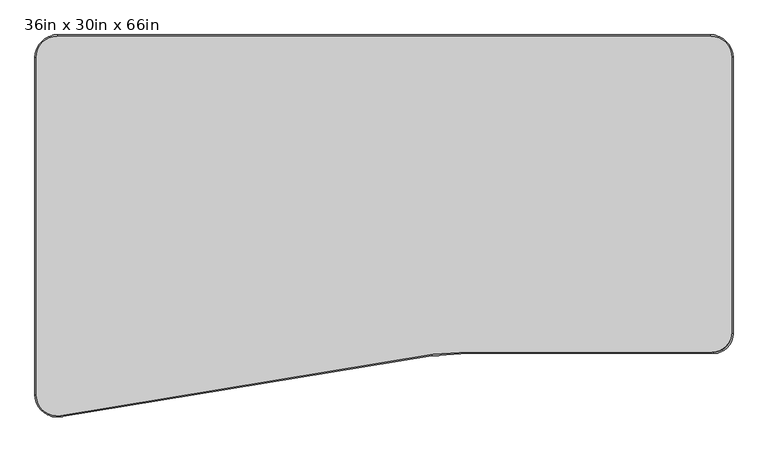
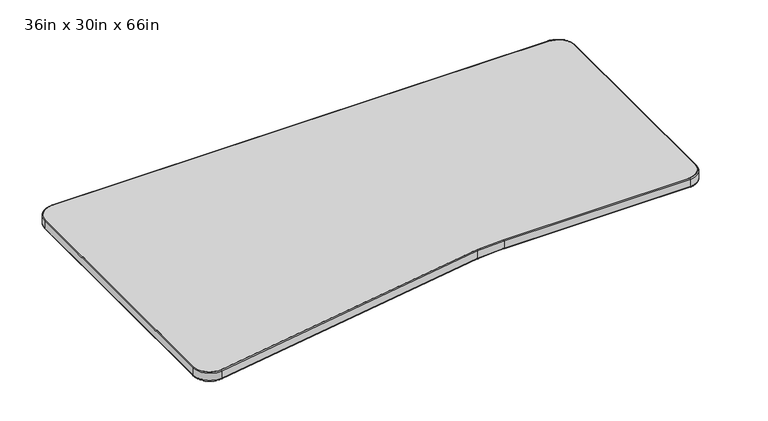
"""IFC4 building model written with IfcOpenShell, lengths in millimetres: furniture geometry, Steelcase - Answer Solution - Universal Table - Transition - Left : 36in x 30in x 66in."""

from ifc_helpers import new_model, si_unit, point, frame, frame_2d, origin, place, context, project, spatial, polyline, circle_curve, ellipse_curve, trimmed, segment, composite_curve, outline, extrude, source, transform, mapped, element, save
from ifc_brep_helpers import plane_surface, cylinder_surface, revolved_surface, advanced_brep


def furniture_36in_x_30in_x_66in_2783b16c(model_context):
    return source(origin(), model_context, "Body", "SolidModel", [
        extrude(outline(composite_curve([segment(polyline([(53.8479244, -3.0479999), (1616.2019516, -3.0479999)]), True, "CONTINUOUS"), segment(trimmed(circle_curve(frame_2d((1616.2019516, -53.8479999)), 50.8), [point((1616.2019516, -3.0479999))], [point((1667.0019516, -53.8479999))], False, "CARTESIAN"), True, "CONTINUOUS"), segment(polyline([(1667.0019516, -53.8479999), (1667.0019516, -711.0676965)]), True, "CONTINUOUS"), segment(trimmed(circle_curve(frame_2d((1619.1176452, -711.0676965)), 47.8843065), [point((1667.0019516, -711.0676965))], [point((1619.1176452, -758.9520029))], False, "CARTESIAN"), True, "CONTINUOUS"), segment(polyline([(1619.1176452, -758.9520029), (1034.7747338, -758.9520029)]), True, "CONTINUOUS"), segment(trimmed(circle_curve(frame_2d((1034.7747338, -1446.1704002)), 687.2183973), [point((1034.7747338, -758.9520029))], [point((951.2043966, -764.0522841))], True, "CARTESIAN"), True, "CONTINUOUS"), segment(polyline([(951.2043966, -764.0522841), (60.025543, -910.5787488)]), True, "CONTINUOUS"), segment(trimmed(circle_curve(frame_2d((53.8479244, -860.1557677)), 50.8), [point((60.025543, -910.5787488))], [point((3.0479244, -860.1557677))], False, "CARTESIAN"), True, "CONTINUOUS"), segment(polyline([(3.0479244, -860.1557677), (3.0479244, -53.8479999)]), True, "CONTINUOUS"), segment(trimmed(circle_curve(frame_2d((53.8479244, -53.8479999)), 50.8), [point((3.0479244, -53.8479999))], [point((53.8479244, -3.0479999))], False, "CARTESIAN"), True, "CONTINUOUS")], self_intersect=False)), frame((0.0, 0.0, 668.274), z_axis=(0.0, 0.0, 1.0), x_axis=(1.0, 0.0, 0.0)), (0.0, 0.0, 1.0), 30.0481659),
        advanced_brep(
        [(-7.55e-05, -53.8479999, 671.3219999), (53.8479244, 0.0, 671.3219999), (53.8479244, -3.0479999, 668.274), (3.0479244, -53.8479999, 668.274), (-7.55e-05, -53.8479999, 695.274166), (53.8479244, 0.0, 695.274166), (3.0479244, -53.8479999, 698.3221659), (53.8479244, -3.0479999, 698.3221659), (3.0479244, -860.1557677, 668.274), (-7.55e-05, -860.1557677, 671.3219999), (-7.55e-05, -860.1557677, 695.274166), (3.0479244, -860.1557677, 698.3221659), (60.3962001, -913.6041276, 671.3219999), (60.025543, -910.5787488, 668.274), (60.3962001, -913.6041276, 695.274166), (60.025543, -910.5787488, 698.3221659), (949.2804802, -764.2879945, 668.274), (949.7752543, -767.2955686, 671.3219999), (949.7752543, -767.2955686, 695.274166), (949.2804802, -764.2879945, 698.3221659), (1036.7130356, -762.0000028, 671.3219999), (1036.7130356, -758.9520029, 668.274), (1036.7130356, -762.0000028, 695.274166), (1036.7130356, -758.9520029, 698.3221659), (1622.5519516, -758.9520029, 668.274), (1622.5519516, -762.0000028, 671.3219999), (1622.5519516, -762.0000028, 695.274166), (1622.5519516, -758.9520029, 698.3221659), (1670.0499516, -714.5020029, 671.3219999), (1667.0019516, -714.5020029, 668.274), (1670.0499516, -714.5020029, 695.274166), (1667.0019516, -714.5020029, 698.3221659), (1667.0019516, -53.8479999, 668.274), (1670.0499516, -53.8479999, 671.3219999), (1670.0499516, -53.8479999, 695.274166), (1667.0019516, -53.8479999, 698.3221659), (1616.2019516, 0.0, 671.3219999), (1616.2019516, -3.0479999, 668.274), (1616.2019516, 0.0, 695.274166), (1616.2019516, -3.0479999, 698.3221659)],
        [
            (0, 1, circle_curve(frame((53.8479244, -53.8479999, 671.3219999), z_axis=(0.0, 0.0, -1.0), x_axis=(0.0, 1.0, 0.0)), 53.8479999)),
            (1, 2, circle_curve(frame((53.8479244, -3.0479999, 671.3219999), z_axis=(-1.0, 0.0, 0.0), x_axis=(0.0, -1.0, 0.0)), 3.0479999)),
            (2, 3, circle_curve(frame((53.8479244, -53.8479999, 668.274), z_axis=(0.0, 0.0, 1.0), x_axis=(0.0, 1.0, 0.0)), 50.8)),
            (3, 0, circle_curve(frame((3.0479244, -53.8479999, 671.3219999), z_axis=(0.0, 1.0, 0.0), x_axis=(1.0, 0.0, 0.0)), 3.0479999)),
            (4, 5, circle_curve(frame((53.8479244, -53.8479999, 695.274166), z_axis=(0.0, 0.0, -1.0), x_axis=(0.0, 1.0, 0.0)), 53.8479999)),
            (5, 1),
            (0, 4),
            (6, 7, circle_curve(frame((53.8479244, -53.8479999, 698.3221659), z_axis=(0.0, 0.0, -1.0), x_axis=(0.0, 1.0, 0.0)), 50.8)),
            (7, 5, circle_curve(frame((53.8479244, -3.0479999, 695.274166), z_axis=(-1.0, 0.0, 0.0), x_axis=(0.0, -1.0, 0.0)), 3.0479999)),
            (4, 6, circle_curve(frame((3.0479244, -53.8479999, 695.274166), z_axis=(0.0, 1.0, 0.0), x_axis=(1.0, 0.0, 0.0)), 3.0479999)),
            (2, 7),
            (6, 3),
            (3, 8),
            (8, 9, circle_curve(frame((3.0479244, -860.1557677, 671.3219999), z_axis=(0.0, 1.0, 0.0), x_axis=(1.0, 0.0, 0.0)), 3.0479999)),
            (9, 0),
            (9, 10),
            (10, 4),
            (10, 11, circle_curve(frame((3.0479244, -860.1557677, 695.274166), z_axis=(0.0, 1.0, 0.0), x_axis=(1.0, 0.0, 0.0)), 3.0479999)),
            (11, 6),
            (11, 8),
            (12, 9, circle_curve(frame((53.8479244, -860.1557677, 671.3219999), z_axis=(0.0, 0.0, -1.0), x_axis=(-1.0, 0.0, 0.0)), 53.8479999)),
            (8, 13, circle_curve(frame((53.8479244, -860.1557677, 668.274), z_axis=(0.0, 0.0, 1.0), x_axis=(-1.0, 0.0, 0.0)), 50.8)),
            (13, 12, circle_curve(frame((60.025543, -910.5787488, 671.3219999), z_axis=(-0.9925783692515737, -0.12160666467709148, 0.0), x_axis=(-0.12160666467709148, 0.9925783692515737, 0.0)), 3.0479999)),
            (14, 10, circle_curve(frame((53.8479244, -860.1557677, 695.274166), z_axis=(0.0, 0.0, -1.0), x_axis=(-1.0, 0.0, 0.0)), 53.8479999)),
            (12, 14),
            (15, 11, circle_curve(frame((53.8479244, -860.1557677, 698.3221659), z_axis=(0.0, 0.0, -1.0), x_axis=(-1.0, 0.0, 0.0)), 50.8)),
            (14, 15, circle_curve(frame((60.025543, -910.5787488, 695.274166), z_axis=(-0.9925783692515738, -0.12160666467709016, 0.0), x_axis=(-0.12160666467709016, 0.9925783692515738, 0.0)), 3.0479999)),
            (15, 13),
            (13, 16),
            (16, 17, circle_curve(frame((949.2804802, -764.2879945, 671.3219999), z_axis=(-0.9867369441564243, -0.1623274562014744, 0.0), x_axis=(-0.1623274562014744, 0.9867369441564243, 0.0)), 3.0479999)),
            (17, 12),
            (17, 18),
            (18, 14),
            (18, 19, circle_curve(frame((949.2804802, -764.2879945, 695.274166), z_axis=(-0.9867369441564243, -0.1623274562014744, 0.0), x_axis=(-0.1623274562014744, 0.9867369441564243, 0.0)), 3.0479999)),
            (19, 15),
            (19, 16),
            (20, 17, circle_curve(frame((1036.7130356, -1477.9303219, 671.3219999), z_axis=(0.0, 0.0, 1.0), x_axis=(-0.12160666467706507, 0.9925783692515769, 0.0)), 715.9303191)),
            (16, 21, circle_curve(frame((1036.7130356, -1477.9303219, 668.274), z_axis=(0.0, 0.0, -1.0), x_axis=(-0.12160666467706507, 0.9925783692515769, 0.0)), 718.978319)),
            (21, 20, circle_curve(frame((1036.7130356, -758.9520029, 671.3219999), z_axis=(-1.0, 0.0, 0.0), x_axis=(0.0, 1.0, 0.0)), 3.0479999)),
            (22, 18, circle_curve(frame((1036.7130356, -1477.9303219, 695.274166), z_axis=(0.0, 0.0, 1.0), x_axis=(-0.12160666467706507, 0.9925783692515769, 0.0)), 715.9303191)),
            (20, 22),
            (23, 19, circle_curve(frame((1036.7130356, -1477.9303219, 698.3221659), z_axis=(0.0, 0.0, 1.0), x_axis=(-0.12160666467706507, 0.9925783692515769, 0.0)), 718.978319)),
            (22, 23, circle_curve(frame((1036.7130356, -758.9520029, 695.274166), z_axis=(-0.9999999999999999, 0.0, 0.0), x_axis=(0.0, 0.9999999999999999, 0.0)), 3.0479999)),
            (23, 21),
            (21, 24),
            (24, 25, circle_curve(frame((1622.5519516, -758.9520029, 671.3219999), z_axis=(-1.0, 0.0, 0.0), x_axis=(0.0, 1.0, 0.0)), 3.0479999)),
            (25, 20),
            (25, 26),
            (26, 22),
            (26, 27, circle_curve(frame((1622.5519516, -758.9520029, 695.274166), z_axis=(-1.0, 0.0, 0.0), x_axis=(0.0, 1.0, 0.0)), 3.0479999)),
            (27, 23),
            (27, 24),
            (28, 25, circle_curve(frame((1622.5519516, -714.5020029, 671.3219999), z_axis=(0.0, 0.0, -1.0), x_axis=(0.0, -1.0, 0.0)), 47.4979999)),
            (24, 29, circle_curve(frame((1622.5519516, -714.5020029, 668.274), z_axis=(0.0, 0.0, 1.0), x_axis=(0.0, -1.0, 0.0)), 44.45)),
            (29, 28, circle_curve(frame((1667.0019516, -714.5020029, 671.3219999), z_axis=(0.0, -1.0, 0.0), x_axis=(-1.0, 0.0, 0.0)), 3.0479999)),
            (30, 26, circle_curve(frame((1622.5519516, -714.5020029, 695.274166), z_axis=(0.0, 0.0, -1.0), x_axis=(0.0, -1.0, 0.0)), 47.4979999)),
            (28, 30),
            (31, 27, circle_curve(frame((1622.5519516, -714.5020029, 698.3221659), z_axis=(0.0, 0.0, -1.0), x_axis=(0.0, -1.0, 0.0)), 44.45)),
            (30, 31, circle_curve(frame((1667.0019516, -714.5020029, 695.274166), z_axis=(0.0, -1.0, 0.0), x_axis=(-1.0, 0.0, 0.0)), 3.0479999)),
            (31, 29),
            (29, 32),
            (32, 33, circle_curve(frame((1667.0019516, -53.8479999, 671.3219999), z_axis=(0.0, -1.0, 0.0), x_axis=(-1.0, 0.0, 0.0)), 3.0479999)),
            (33, 28),
            (33, 34),
            (34, 30),
            (34, 35, circle_curve(frame((1667.0019516, -53.8479999, 695.274166), z_axis=(0.0, -1.0, 0.0), x_axis=(-1.0, 0.0, 0.0)), 3.0479999)),
            (35, 31),
            (35, 32),
            (36, 33, circle_curve(frame((1616.2019516, -53.8479999, 671.3219999), z_axis=(0.0, 0.0, -1.0), x_axis=(1.0, 0.0, 0.0)), 53.8479999)),
            (32, 37, circle_curve(frame((1616.2019516, -53.8479999, 668.274), z_axis=(0.0, 0.0, 1.0), x_axis=(1.0, 0.0, 0.0)), 50.8)),
            (37, 36, circle_curve(frame((1616.2019516, -3.0479999, 671.3219999), z_axis=(1.0, 0.0, 0.0), x_axis=(0.0, -1.0, 0.0)), 3.0479999)),
            (38, 34, circle_curve(frame((1616.2019516, -53.8479999, 695.274166), z_axis=(0.0, 0.0, -1.0), x_axis=(1.0, 0.0, 0.0)), 53.8479999)),
            (36, 38),
            (39, 35, circle_curve(frame((1616.2019516, -53.8479999, 698.3221659), z_axis=(0.0, 0.0, -1.0), x_axis=(1.0, 0.0, 0.0)), 50.8)),
            (38, 39, circle_curve(frame((1616.2019516, -3.0479999, 695.274166), z_axis=(1.0, 0.0, 0.0), x_axis=(0.0, -1.0, 0.0)), 3.0479999)),
            (39, 37),
            (37, 2),
            (1, 36),
            (5, 38),
            (7, 39),
        ],
        [
            revolved_surface(trimmed(ellipse_curve(frame((53.8479244, -3.0479999, 671.3219999), z_axis=(1.0, 0.0, 0.0), x_axis=(0.0, -1.0, 0.0)), 3.0479999, 3.0479999), [point((53.8479244, -3.0479999, 668.274))], [point((53.8479244, 0.0, 671.3219999))], True, "CARTESIAN"), (53.8479244, -53.8479999, 0.0), (0.0, 0.0, 1.0)),
            cylinder_surface(frame((53.8479244, -53.8479999, 0.0), z_axis=(0.0, 0.0, 1.0), x_axis=(0.0, 1.0, 0.0)), 53.8479999),
            revolved_surface(trimmed(ellipse_curve(frame((53.8479244, -3.0479999, 695.274166), z_axis=(1.0, 0.0, 0.0), x_axis=(0.0, -1.0, 0.0)), 3.0479999, 3.0479999), [point((53.8479244, 0.0, 695.274166))], [point((53.8479244, -3.0479999, 698.3221659))], True, "CARTESIAN"), (53.8479244, -53.8479999, 0.0), (0.0, 0.0, 1.0)),
            revolved_surface(polyline([(53.8479244, -3.0479999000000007, 698.3221659), (53.8479244, -3.0479999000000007, 668.274)]), (53.8479244, -53.8479999, 0.0), (0.0, 0.0, 1.0)),
            cylinder_surface(frame((3.0479244, -53.8479999, 671.3219999), z_axis=(0.0, 1.0, 0.0), x_axis=(1.0, 0.0, 0.0)), 3.0479999),
            plane_surface(frame((-7.55e-05, -53.8479999, 671.3219999), z_axis=(-1.0, 0.0, 0.0), x_axis=(0.0, -1.0, 0.0))),
            cylinder_surface(frame((3.0479244, -53.8479999, 695.274166), z_axis=(0.0, 1.0, 0.0), x_axis=(1.0, 0.0, 0.0)), 3.0479999),
            plane_surface(frame((3.0479244, -53.8479999, 698.3221659), z_axis=(1.0, 0.0, 0.0), x_axis=(0.0, -1.0, 0.0))),
            revolved_surface(trimmed(ellipse_curve(frame((3.0479244, -860.1557677, 671.3219999), z_axis=(0.0, 1.0, 0.0), x_axis=(1.0, 0.0, 0.0)), 3.0479999, 3.0479999), [point((3.0479244, -860.1557677, 668.274))], [point((-7.55e-05, -860.1557677, 671.3219999))], True, "CARTESIAN"), (53.8479244, -860.1557677, 0.0), (0.0, 0.0, 1.0)),
            cylinder_surface(frame((53.8479244, -860.1557677, 0.0), z_axis=(0.0, 0.0, 1.0), x_axis=(-1.0, 0.0, 0.0)), 53.8479999),
            revolved_surface(trimmed(ellipse_curve(frame((3.0479244, -860.1557677, 695.274166), z_axis=(0.0, 1.0, 0.0), x_axis=(1.0, 0.0, 0.0)), 3.0479999, 3.0479999), [point((-7.55e-05, -860.1557677, 695.274166))], [point((3.0479244, -860.1557677, 698.3221659))], True, "CARTESIAN"), (53.8479244, -860.1557677, 0.0), (0.0, 0.0, 1.0)),
            revolved_surface(polyline([(3.0479243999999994, -860.1557677, 698.3221659), (3.0479243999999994, -860.1557677, 668.274)]), (53.8479244, -860.1557677, 0.0), (0.0, 0.0, 1.0)),
            cylinder_surface(frame((60.025543, -910.5787488, 671.3219999), z_axis=(-0.9867369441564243, -0.1623274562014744, 0.0), x_axis=(-0.1623274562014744, 0.9867369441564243, 0.0)), 3.0479999),
            plane_surface(frame((60.396514, -913.6066897, 671.3219999), z_axis=(0.16232745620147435, -0.9867369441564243, 0.0), x_axis=(0.9867369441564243, 0.16232745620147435, 0.0))),
            cylinder_surface(frame((60.025543, -910.5787488, 695.274166), z_axis=(-0.9867369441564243, -0.1623274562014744, 0.0), x_axis=(-0.1623274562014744, 0.9867369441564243, 0.0)), 3.0479999),
            plane_surface(frame((60.025543, -910.5787488, 698.3221659), z_axis=(-0.1623274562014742, 0.9867369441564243, 0.0), x_axis=(0.9867369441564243, 0.1623274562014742, 0.0))),
            revolved_surface(trimmed(ellipse_curve(frame((949.2804802, -764.2879945, 671.3219999), z_axis=(-0.9925783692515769, -0.12160666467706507, 0.0), x_axis=(-0.12160666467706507, 0.9925783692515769, 0.0)), 3.0479999, 3.0479999), [point((949.2804802, -764.2879945, 668.274))], [point((949.6511373, -767.3133733, 671.3219999))], True, "CARTESIAN"), (1036.7130356, -1477.9303219, 0.0), (0.0, 0.0, -1.0)),
            revolved_surface(polyline([(949.6511373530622, -767.313373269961, 671.3219999), (949.6511373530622, -767.313373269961, 695.274166)]), (1036.7130356, -1477.9303219, 0.0), (0.0, 0.0, -1.0)),
            revolved_surface(trimmed(ellipse_curve(frame((949.2804802, -764.2879945, 695.274166), z_axis=(-0.9925783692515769, -0.12160666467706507, 0.0), x_axis=(-0.12160666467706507, 0.9925783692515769, 0.0)), 3.0479999, 3.0479999), [point((949.6511373, -767.3133733, 695.274166))], [point((949.2804802, -764.2879945, 698.3221659))], True, "CARTESIAN"), (1036.7130356, -1477.9303219, 0.0), (0.0, 0.0, -1.0)),
            cylinder_surface(frame((1036.7130356, -1477.9303219, 0.0), z_axis=(0.0, 0.0, -1.0), x_axis=(-0.12160666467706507, 0.9925783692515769, 0.0)), 718.978319),
            cylinder_surface(frame((1036.7130356, -758.9520029, 671.3219999), z_axis=(-1.0, 0.0, 0.0), x_axis=(0.0, 1.0, 0.0)), 3.0479999),
            plane_surface(frame((1036.7130356, -762.0000028, 671.3219999), z_axis=(0.0, -1.0, 0.0), x_axis=(1.0, 0.0, 0.0))),
            cylinder_surface(frame((1036.7130356, -758.9520029, 695.274166), z_axis=(-1.0, 0.0, 0.0), x_axis=(0.0, 1.0, 0.0)), 3.0479999),
            plane_surface(frame((1036.7130356, -758.9520029, 698.3221659), z_axis=(0.0, 1.0, 0.0), x_axis=(1.0, 0.0, 0.0))),
            revolved_surface(trimmed(ellipse_curve(frame((1622.5519516, -758.9520029, 671.3219999), z_axis=(-1.0, 0.0, 0.0), x_axis=(0.0, 1.0, 0.0)), 3.0479999, 3.0479999), [point((1622.5519516, -758.9520029, 668.274))], [point((1622.5519516, -762.0000028, 671.3219999))], True, "CARTESIAN"), (1622.5519516, -714.5020029, 0.0), (0.0, 0.0, 1.0)),
            cylinder_surface(frame((1622.5519516, -714.5020029, 0.0), z_axis=(0.0, 0.0, 1.0), x_axis=(0.0, -1.0, 0.0)), 47.4979999),
            revolved_surface(trimmed(ellipse_curve(frame((1622.5519516, -758.9520029, 695.274166), z_axis=(-1.0, 0.0, 0.0), x_axis=(0.0, 1.0, 0.0)), 3.0479999, 3.0479999), [point((1622.5519516, -762.0000028, 695.274166))], [point((1622.5519516, -758.9520029, 698.3221659))], True, "CARTESIAN"), (1622.5519516, -714.5020029, 0.0), (0.0, 0.0, 1.0)),
            revolved_surface(polyline([(1622.5519516, -758.9520029, 698.3221659), (1622.5519516, -758.9520029, 668.274)]), (1622.5519516, -714.5020029, 0.0), (0.0, 0.0, 1.0)),
            cylinder_surface(frame((1667.0019516, -714.5020029, 671.3219999), z_axis=(0.0, -1.0, 0.0), x_axis=(-1.0, 0.0, 0.0)), 3.0479999),
            plane_surface(frame((1670.0499516, -714.5020029, 671.3219999), z_axis=(1.0, 0.0, 0.0), x_axis=(0.0, 1.0, 0.0))),
            cylinder_surface(frame((1667.0019516, -714.5020029, 695.274166), z_axis=(0.0, -1.0, 0.0), x_axis=(-1.0, 0.0, 0.0)), 3.0479999),
            plane_surface(frame((1667.0019516, -714.5020029, 698.3221659), z_axis=(-1.0, 0.0, 0.0), x_axis=(0.0, 1.0, 0.0))),
            revolved_surface(trimmed(ellipse_curve(frame((1667.0019516, -53.8479999, 671.3219999), z_axis=(0.0, -1.0, 0.0), x_axis=(-1.0, 0.0, 0.0)), 3.0479999, 3.0479999), [point((1667.0019516, -53.8479999, 668.274))], [point((1670.0499516, -53.8479999, 671.3219999))], True, "CARTESIAN"), (1616.2019516, -53.8479999, 0.0), (0.0, 0.0, 1.0)),
            cylinder_surface(frame((1616.2019516, -53.8479999, 0.0), z_axis=(0.0, 0.0, 1.0), x_axis=(1.0, 0.0, 0.0)), 53.8479999),
            revolved_surface(trimmed(ellipse_curve(frame((1667.0019516, -53.8479999, 695.274166), z_axis=(0.0, -1.0, 0.0), x_axis=(-1.0, 0.0, 0.0)), 3.0479999, 3.0479999), [point((1670.0499516, -53.8479999, 695.274166))], [point((1667.0019516, -53.8479999, 698.3221659))], True, "CARTESIAN"), (1616.2019516, -53.8479999, 0.0), (0.0, 0.0, 1.0)),
            revolved_surface(polyline([(1667.0019516, -53.8479999, 698.3221659), (1667.0019516, -53.8479999, 668.274)]), (1616.2019516, -53.8479999, 0.0), (0.0, 0.0, 1.0)),
            cylinder_surface(frame((1616.2019516, -3.0479999, 671.3219999), z_axis=(1.0, 0.0, 0.0), x_axis=(0.0, -1.0, 0.0)), 3.0479999),
            plane_surface(frame((1616.2019516, 0.0, 671.3219999), z_axis=(0.0, 1.0, 0.0), x_axis=(-1.0, 0.0, 0.0))),
            cylinder_surface(frame((1616.2019516, -3.0479999, 695.274166), z_axis=(1.0, 0.0, 0.0), x_axis=(0.0, -1.0, 0.0)), 3.0479999),
            plane_surface(frame((1616.2019516, -3.0479999, 698.3221659), z_axis=(0.0, -1.0, 0.0), x_axis=(-1.0, 0.0, 0.0))),
        ],
        [
            (0, [[1, 2, 3, 4]]),
            (1, [[5, 6, -1, 7]]),
            (2, [[8, 9, -5, 10]]),
            (3, [[-3, 11, -8, 12]]),
            (4, [[-4, 13, 14, 15]]),
            (5, [[-7, -15, 16, 17]]),
            (6, [[-10, -17, 18, 19]]),
            (7, [[-12, -19, 20, -13]]),
            (8, [[21, -14, 22, 23]]),
            (9, [[24, -16, -21, 25]]),
            (10, [[26, -18, -24, 27]]),
            (11, [[-22, -20, -26, 28]]),
            (12, [[-23, 29, 30, 31]]),
            (13, [[-25, -31, 32, 33]]),
            (14, [[-27, -33, 34, 35]]),
            (15, [[-28, -35, 36, -29]]),
            (16, [[37, -30, 38, 39]]),
            (17, [[40, -32, -37, 41]]),
            (18, [[42, -34, -40, 43]]),
            (19, [[-38, -36, -42, 44]]),
            (20, [[-39, 45, 46, 47]]),
            (21, [[-41, -47, 48, 49]]),
            (22, [[-43, -49, 50, 51]]),
            (23, [[-44, -51, 52, -45]]),
            (24, [[53, -46, 54, 55]]),
            (25, [[56, -48, -53, 57]]),
            (26, [[58, -50, -56, 59]]),
            (27, [[-54, -52, -58, 60]]),
            (28, [[-55, 61, 62, 63]]),
            (29, [[-57, -63, 64, 65]]),
            (30, [[-59, -65, 66, 67]]),
            (31, [[-60, -67, 68, -61]]),
            (32, [[69, -62, 70, 71]]),
            (33, [[72, -64, -69, 73]]),
            (34, [[74, -66, -72, 75]]),
            (35, [[-70, -68, -74, 76]]),
            (36, [[-71, 77, -2, 78]]),
            (37, [[-73, -78, -6, 79]]),
            (38, [[-75, -79, -9, 80]]),
            (39, [[-76, -80, -11, -77]]),
        ],
    ),
    ])


if __name__ == "__main__":
    model = new_model("IFC4")
    model_context = context("Model", 3, world=origin())
    ifc_project = project(units=[si_unit("LENGTHUNIT", "METRE", prefix="MILLI")], contexts=[model_context])
    site = spatial("IfcSite", under=ifc_project)
    building = spatial("IfcBuilding", under=site)
    placement = place(None, origin())
    furniture_36in_x_30in_x_66in_shape = furniture_36in_x_30in_x_66in_2783b16c(model_context)
    element("IfcFurniture", 1, ObjectType="Steelcase - Answer Solution - Universal Table - Transition - Left : 36in x 30in x 66in", at=placement, inside=building, context=model_context, shape_type="MappedRepresentation", body=[
        mapped(furniture_36in_x_30in_x_66in_shape, transform((0.0, 0.0, 0.0), x_axis=(1.0, 0.0, 0.0), y_axis=(0.0, 1.0, 0.0), z_axis=(0.0, 0.0, 1.0))),
    ])
    save(model, "model.ifc")
